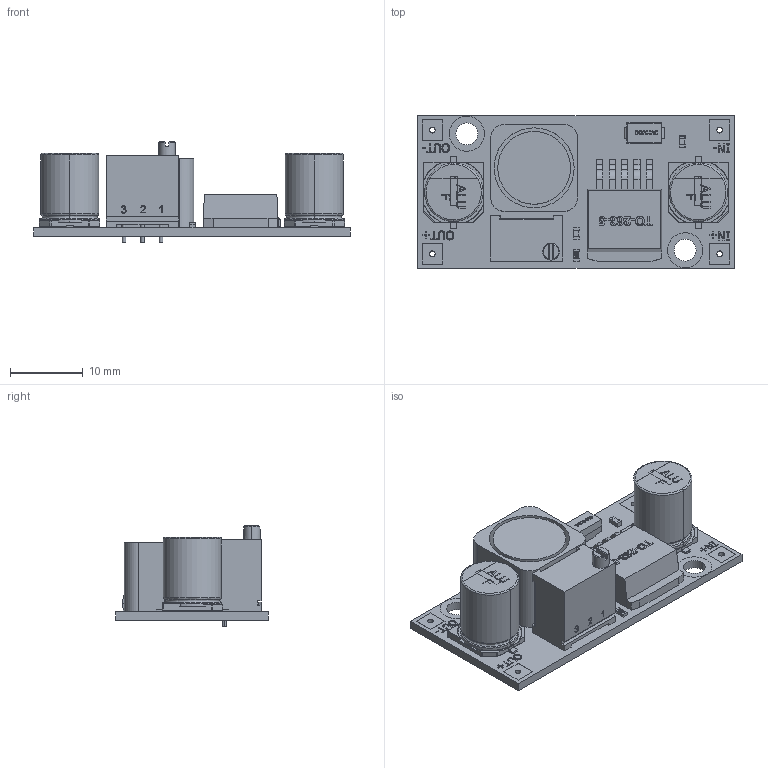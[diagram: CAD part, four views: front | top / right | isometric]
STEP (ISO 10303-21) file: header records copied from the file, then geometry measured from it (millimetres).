
FILE_DESCRIPTION (( 'STEP AP214' ), '1' );
FILE_NAME ('User Library-DC-DC MODULE LM2596s.STEP', '2020-01-25T11:37:58', ( '' ), ( '' ), 'SwSTEP 2.0', 'SolidWorks 2019', '' );
FILE_SCHEMA (( 'AUTOMOTIVE_DESIGN' ));
Length unit declared in the file: millimetre
Products named in the file (20): User Library-TO-263-5_TO-263-5_Marking_1; _X2_041F043B043004420430_X0_; C0603; User Library-TO-263-5; User Library-TO-263-5_TO-263-5_Body_1; _X2_0418043D04340443043A044204380432043D043E04410442044C_X0_; User Library-DC-DC MODULE LM2596s; User Library-ALU-F_Fuss_1; User Library-TO-263-5_TO-263-5_Leads_1; C4; User Library-ALU-F_K_X_F6rper_1; User Library-ALU-F_Beschriftung_1; R2; User Library-ALU-F; User Library-BI_Tech_68W; User Library-ALU-F_Pins_1; User Library-DO-214AC(SMA); R0603
Assembly tree (24 placements, depth 3):
  User Library-DC-DC MODULE LM2596s
    User Library-BI_Tech_68W
    User Library-DO-214AC(SMA)
    User Library-TO-263-5
      User Library-TO-263-5_TO-263-5_Body_1
      User Library-TO-263-5_TO-263-5_Leads_1
      User Library-TO-263-5_TO-263-5_Marking_1
    _X2_041F043B043004420430_X0_
    _X2_0418043D04340443043A044204380432043D043E04410442044C_X0_
    C4
      C0603
    C4
      C0603
    R2
      R0603
    User Library-ALU-F
      User Library-ALU-F_Pins_1
      User Library-ALU-F_Fuss_1
      User Library-ALU-F_K_X_F6rper_1
      User Library-ALU-F_Beschriftung_1
    User Library-ALU-F
      User Library-ALU-F_Pins_1
      User Library-ALU-F_Fuss_1
      User Library-ALU-F_K_X_F6rper_1
      User Library-ALU-F_Beschriftung_1
Bounding box: 43.5 x 21 x 13.81 mm (x, y, z)
Volume: 4380.2 mm3; surface area: 5375.4 mm2
Topology: 25 solids, 25 shells, 1875 faces, 4869 edges, 3099 vertices
Faces by surface type: plane 979, bspline 576, cylinder 317, cone 3
Entity records: 69622 total; most frequent: CARTESIAN_POINT 17716, ORIENTED_EDGE 7918, DIRECTION 5666, EDGE_CURVE 3959, LINE 2630, VECTOR 2630, VERTEX_POINT 2578, EDGE_LOOP 1635
